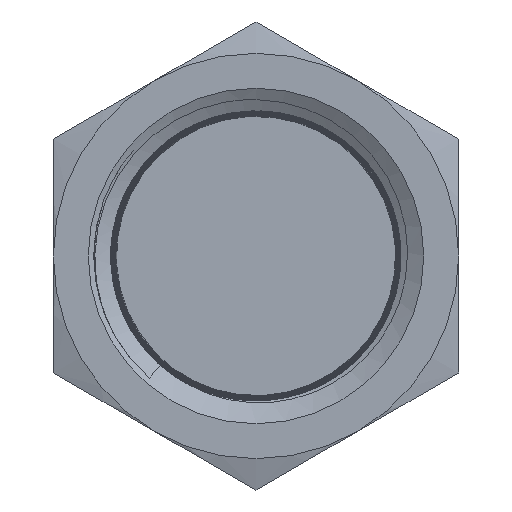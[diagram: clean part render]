
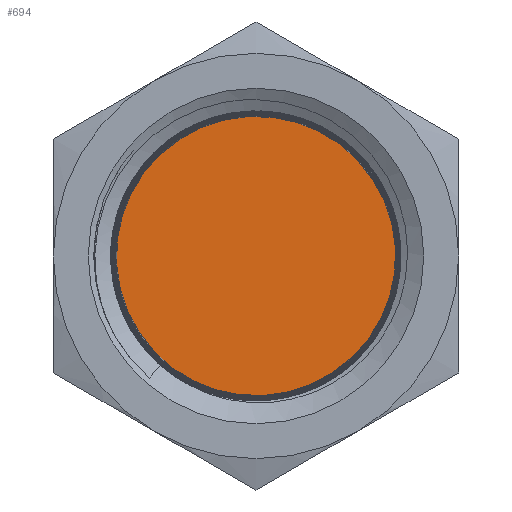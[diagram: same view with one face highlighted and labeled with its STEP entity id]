
A CAD part, left-side view. The second image highlights one B-rep face of the part: STEP entity #694.
In plain terms, the highlighted planar face has unit normal (-1, 0, 0).
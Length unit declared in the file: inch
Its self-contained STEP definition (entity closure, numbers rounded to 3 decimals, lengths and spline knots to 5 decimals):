
#694 = ADVANCED_FACE( '', ( #1407 ), #1408, .T. );
#1407 = FACE_OUTER_BOUND( '', #8082, .T. );
#1408 = PLANE( '', #8083 );
#8082 = EDGE_LOOP( '', ( #10379 ) );
#8083 = AXIS2_PLACEMENT_3D( '', #10380, #10381, #10382 );
#10379 = ORIENTED_EDGE( '', *, *, #11121, .T. );
#10380 = CARTESIAN_POINT( '', ( 0.748, 0., 0. ) );
#10381 = DIRECTION( '', ( -1., 0., 0. ) );
#10382 = DIRECTION( '', ( 0., 0., 1. ) );
#11121 = EDGE_CURVE( '', #12087, #12087, #12303, .T. );
#12087 = VERTEX_POINT( '', #15706 );
#12303 = CIRCLE( '', #17115, 0.55985 );
#15706 = CARTESIAN_POINT( '', ( 0.748, 0.33376, -0.44948 ) );
#17115 = AXIS2_PLACEMENT_3D( '', #17814, #17815, #17816 );
#17814 = CARTESIAN_POINT( '', ( 0.748, 0., 0. ) );
#17815 = DIRECTION( '', ( -1., 0., 0. ) );
#17816 = DIRECTION( '', ( 0., 0., 1. ) );
